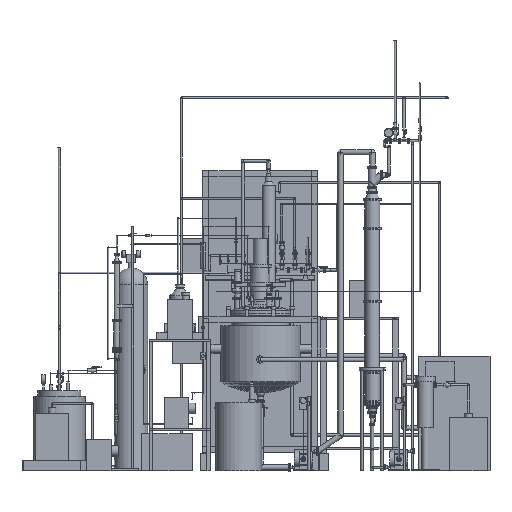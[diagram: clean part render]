
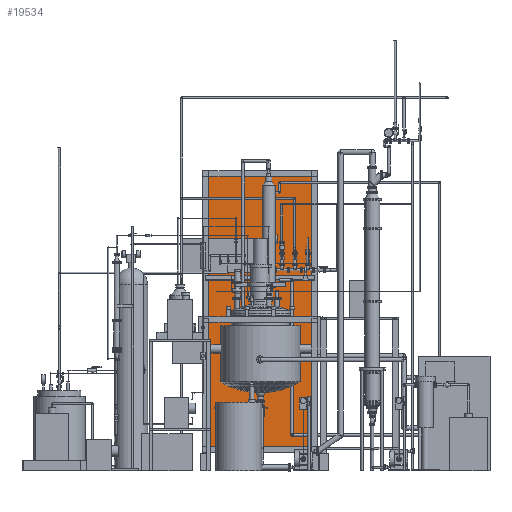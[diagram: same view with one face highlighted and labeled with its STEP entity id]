
A CAD part, front view. The second image highlights one B-rep face of the part: STEP entity #19534.
In plain terms, the highlighted planar face has unit normal (0, -1, 0).
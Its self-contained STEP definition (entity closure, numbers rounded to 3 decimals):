
#19318 = EDGE_CURVE('',#19319,#19321,#19323,.T.);
#19319 = VERTEX_POINT('',#19320);
#19320 = CARTESIAN_POINT('',(-400.,718.,150.));
#19321 = VERTEX_POINT('',#19322);
#19322 = CARTESIAN_POINT('',(-400.,718.,2092.));
#19323 = SURFACE_CURVE('',#19324,(#19328,#19340),.PCURVE_S1.);
#19324 = LINE('',#19325,#19326);
#19325 = CARTESIAN_POINT('',(-400.,718.,150.));
#19326 = VECTOR('',#19327,1.);
#19327 = DIRECTION('',(0.,0.,1.));
#19328 = PCURVE('',#19329,#19334);
#19329 = PLANE('',#19330);
#19330 = AXIS2_PLACEMENT_3D('',#19331,#19332,#19333);
#19331 = CARTESIAN_POINT('',(-400.,718.,150.));
#19332 = DIRECTION('',(1.,0.,-0.));
#19333 = DIRECTION('',(0.,0.,1.));
#19334 = DEFINITIONAL_REPRESENTATION('',(#19335),#19339);
#19335 = LINE('',#19336,#19337);
#19336 = CARTESIAN_POINT('',(0.,0.));
#19337 = VECTOR('',#19338,1.);
#19338 = DIRECTION('',(1.,0.));
#19339 = ( GEOMETRIC_REPRESENTATION_CONTEXT(2) 
PARAMETRIC_REPRESENTATION_CONTEXT() REPRESENTATION_CONTEXT('2D SPACE',''
  ) );
#19340 = PCURVE('',#19341,#19346);
#19341 = PLANE('',#19342);
#19342 = AXIS2_PLACEMENT_3D('',#19343,#19344,#19345);
#19343 = CARTESIAN_POINT('',(-400.,718.,150.));
#19344 = DIRECTION('',(-0.,1.,0.));
#19345 = DIRECTION('',(0.,0.,1.));
#19346 = DEFINITIONAL_REPRESENTATION('',(#19347),#19351);
#19347 = LINE('',#19348,#19349);
#19348 = CARTESIAN_POINT('',(0.,0.));
#19349 = VECTOR('',#19350,1.);
#19350 = DIRECTION('',(1.,0.));
#19351 = ( GEOMETRIC_REPRESENTATION_CONTEXT(2) 
PARAMETRIC_REPRESENTATION_CONTEXT() REPRESENTATION_CONTEXT('2D SPACE',''
  ) );
#19369 = PLANE('',#19370);
#19370 = AXIS2_PLACEMENT_3D('',#19371,#19372,#19373);
#19371 = CARTESIAN_POINT('',(-400.,718.,150.));
#19372 = DIRECTION('',(0.,0.,1.));
#19373 = DIRECTION('',(1.,0.,-0.));
#19423 = PLANE('',#19424);
#19424 = AXIS2_PLACEMENT_3D('',#19425,#19426,#19427);
#19425 = CARTESIAN_POINT('',(-400.,718.,2092.));
#19426 = DIRECTION('',(0.,0.,1.));
#19427 = DIRECTION('',(1.,0.,-0.));
#19438 = EDGE_CURVE('',#19439,#19441,#19443,.T.);
#19439 = VERTEX_POINT('',#19440);
#19440 = CARTESIAN_POINT('',(400.,718.,150.));
#19441 = VERTEX_POINT('',#19442);
#19442 = CARTESIAN_POINT('',(400.,718.,2092.));
#19443 = SURFACE_CURVE('',#19444,(#19448,#19460),.PCURVE_S1.);
#19444 = LINE('',#19445,#19446);
#19445 = CARTESIAN_POINT('',(400.,718.,150.));
#19446 = VECTOR('',#19447,1.);
#19447 = DIRECTION('',(0.,0.,1.));
#19448 = PCURVE('',#19449,#19454);
#19449 = PLANE('',#19450);
#19450 = AXIS2_PLACEMENT_3D('',#19451,#19452,#19453);
#19451 = CARTESIAN_POINT('',(400.,718.,150.));
#19452 = DIRECTION('',(1.,0.,-0.));
#19453 = DIRECTION('',(0.,0.,1.));
#19454 = DEFINITIONAL_REPRESENTATION('',(#19455),#19459);
#19455 = LINE('',#19456,#19457);
#19456 = CARTESIAN_POINT('',(0.,0.));
#19457 = VECTOR('',#19458,1.);
#19458 = DIRECTION('',(1.,0.));
#19459 = ( GEOMETRIC_REPRESENTATION_CONTEXT(2) 
PARAMETRIC_REPRESENTATION_CONTEXT() REPRESENTATION_CONTEXT('2D SPACE',''
  ) );
#19460 = PCURVE('',#19341,#19461);
#19461 = DEFINITIONAL_REPRESENTATION('',(#19462),#19466);
#19462 = LINE('',#19463,#19464);
#19463 = CARTESIAN_POINT('',(0.,800.));
#19464 = VECTOR('',#19465,1.);
#19465 = DIRECTION('',(1.,0.));
#19466 = ( GEOMETRIC_REPRESENTATION_CONTEXT(2) 
PARAMETRIC_REPRESENTATION_CONTEXT() REPRESENTATION_CONTEXT('2D SPACE',''
  ) );
#19534 = ADVANCED_FACE('',(#19535),#19341,.F.);
#19535 = FACE_BOUND('',#19536,.F.);
#19536 = EDGE_LOOP('',(#19537,#19558,#19559,#19580));
#19537 = ORIENTED_EDGE('',*,*,#19538,.F.);
#19538 = EDGE_CURVE('',#19319,#19439,#19539,.T.);
#19539 = SURFACE_CURVE('',#19540,(#19544,#19551),.PCURVE_S1.);
#19540 = LINE('',#19541,#19542);
#19541 = CARTESIAN_POINT('',(-400.,718.,150.));
#19542 = VECTOR('',#19543,1.);
#19543 = DIRECTION('',(1.,0.,-0.));
#19544 = PCURVE('',#19341,#19545);
#19545 = DEFINITIONAL_REPRESENTATION('',(#19546),#19550);
#19546 = LINE('',#19547,#19548);
#19547 = CARTESIAN_POINT('',(0.,0.));
#19548 = VECTOR('',#19549,1.);
#19549 = DIRECTION('',(0.,1.));
#19550 = ( GEOMETRIC_REPRESENTATION_CONTEXT(2) 
PARAMETRIC_REPRESENTATION_CONTEXT() REPRESENTATION_CONTEXT('2D SPACE',''
  ) );
#19551 = PCURVE('',#19369,#19552);
#19552 = DEFINITIONAL_REPRESENTATION('',(#19553),#19557);
#19553 = LINE('',#19554,#19555);
#19554 = CARTESIAN_POINT('',(0.,0.));
#19555 = VECTOR('',#19556,1.);
#19556 = DIRECTION('',(1.,0.));
#19557 = ( GEOMETRIC_REPRESENTATION_CONTEXT(2) 
PARAMETRIC_REPRESENTATION_CONTEXT() REPRESENTATION_CONTEXT('2D SPACE',''
  ) );
#19558 = ORIENTED_EDGE('',*,*,#19318,.T.);
#19559 = ORIENTED_EDGE('',*,*,#19560,.T.);
#19560 = EDGE_CURVE('',#19321,#19441,#19561,.T.);
#19561 = SURFACE_CURVE('',#19562,(#19566,#19573),.PCURVE_S1.);
#19562 = LINE('',#19563,#19564);
#19563 = CARTESIAN_POINT('',(-400.,718.,2092.));
#19564 = VECTOR('',#19565,1.);
#19565 = DIRECTION('',(1.,0.,-0.));
#19566 = PCURVE('',#19341,#19567);
#19567 = DEFINITIONAL_REPRESENTATION('',(#19568),#19572);
#19568 = LINE('',#19569,#19570);
#19569 = CARTESIAN_POINT('',(1942.,0.));
#19570 = VECTOR('',#19571,1.);
#19571 = DIRECTION('',(0.,1.));
#19572 = ( GEOMETRIC_REPRESENTATION_CONTEXT(2) 
PARAMETRIC_REPRESENTATION_CONTEXT() REPRESENTATION_CONTEXT('2D SPACE',''
  ) );
#19573 = PCURVE('',#19423,#19574);
#19574 = DEFINITIONAL_REPRESENTATION('',(#19575),#19579);
#19575 = LINE('',#19576,#19577);
#19576 = CARTESIAN_POINT('',(0.,0.));
#19577 = VECTOR('',#19578,1.);
#19578 = DIRECTION('',(1.,0.));
#19579 = ( GEOMETRIC_REPRESENTATION_CONTEXT(2) 
PARAMETRIC_REPRESENTATION_CONTEXT() REPRESENTATION_CONTEXT('2D SPACE',''
  ) );
#19580 = ORIENTED_EDGE('',*,*,#19438,.F.);
